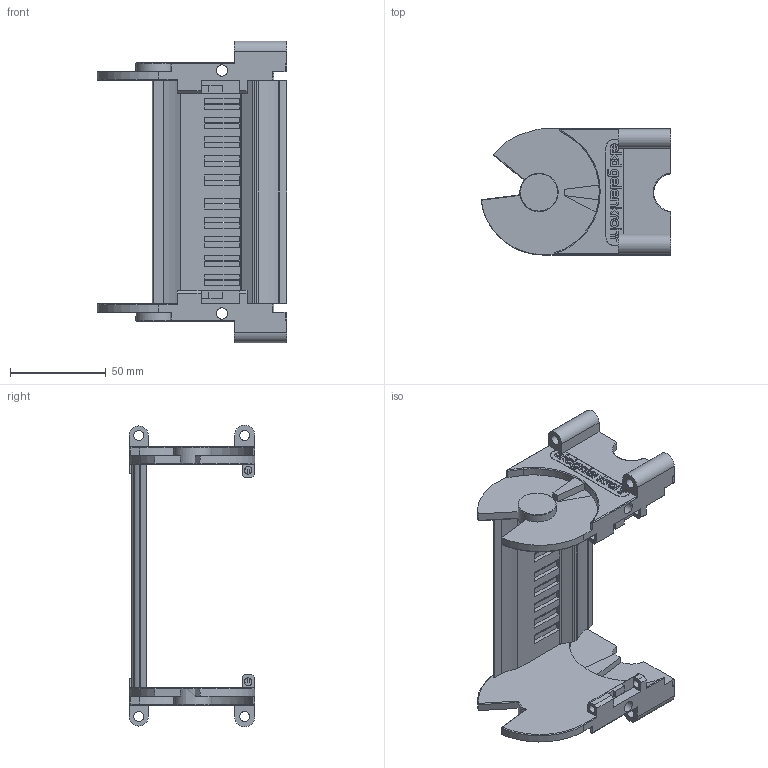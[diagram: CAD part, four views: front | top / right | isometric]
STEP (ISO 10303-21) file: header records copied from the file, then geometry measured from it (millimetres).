
FILE_DESCRIPTION((''),'2;1');
FILE_NAME('C:\Uebbing\PARAMETERKETTEN\KOLIBRI\Kol_65_135_5\Kol_65_135_5 SFA Zapfen.stp','2011-11-02T15:13:37',('Uebbing'),(''),'Autodesk Inventor 10','Autodesk Inventor 10','');
FILE_SCHEMA(('AUTOMOTIVE_DESIGN { 1 0 10303 214 1 1 1 1 }'));
Length unit declared in the file: millimetre
Products named in the file (1): Kol_65_135_5 SFA Zapfen
Bounding box: 99.28 x 65.7 x 157.6 mm (x, y, z)
Volume: 92985.7 mm3; surface area: 56089.4 mm2
Topology: 1 solids, 1 shells, 451 faces, 1266 edges, 817 vertices
Faces by surface type: plane 201, bspline 160, cylinder 78, torus 9, sphere 2, cone 1
Full cylindrical faces by diameter (mm): 2.514 x1, 4 x2, 4.414 x1, 5.2 x2, 6 x1, 20 x1
Entity records: 15310 total; most frequent: CARTESIAN_POINT 4074, ORIENTED_EDGE 2474, DIRECTION 2070, EDGE_CURVE 1237, VECTOR 924, LINE 924, VERTEX_POINT 808, AXIS2_PLACEMENT_3D 573
